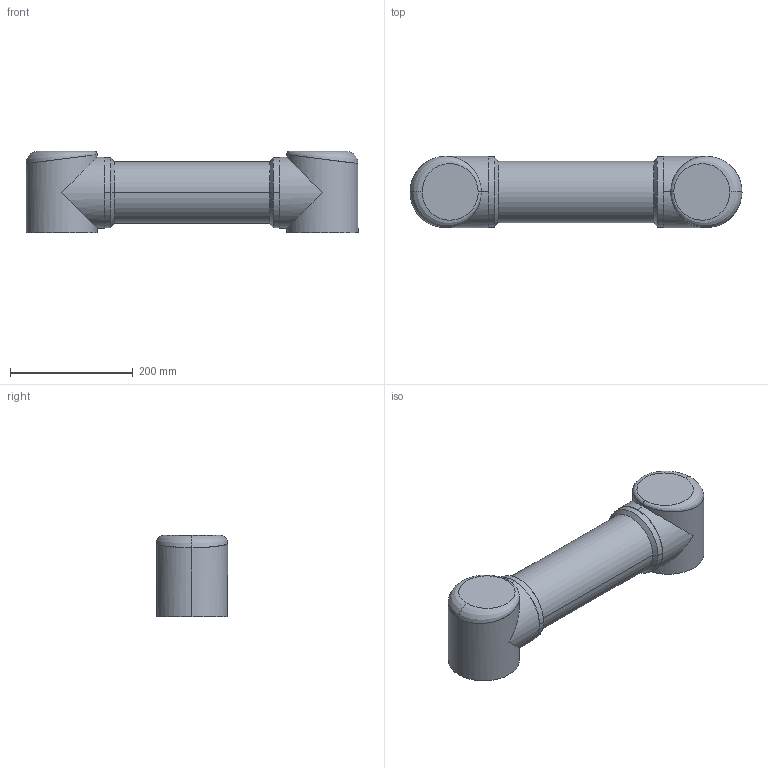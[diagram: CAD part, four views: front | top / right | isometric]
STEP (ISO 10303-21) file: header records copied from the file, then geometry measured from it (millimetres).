
FILE_DESCRIPTION (( 'STEP AP214' ), '1' );
FILE_NAME ('LINK2.STEP', '2020-08-19T14:44:01', ( '' ), ( '' ), 'SwSTEP 2.0', 'SolidWorks 2019', '' );
FILE_SCHEMA (( 'AUTOMOTIVE_DESIGN' ));
Length unit declared in the file: millimetre
Products named in the file (1): LINK2
Bounding box: 541 x 116 x 132.5 mm (x, y, z)
Surface area: 331250.6 mm2 (no closed solid volume)
Topology: 0 solids, 5 shells, 48 faces, 138 edges, 96 vertices
Faces by surface type: cylinder 30, plane 10, bspline 4, cone 4
Entity records: 3643 total; most frequent: CARTESIAN_POINT 1991, ORIENTED_EDGE 268, DIRECTION 184, EDGE_CURVE 138, VERTEX_POINT 96, AXIS2_PLACEMENT_3D 75, EDGE_LOOP 52, UNCERTAINTY_MEASURE_WITH_UNIT 50
